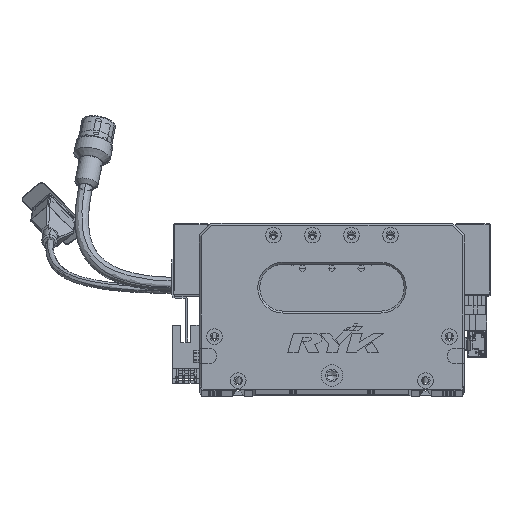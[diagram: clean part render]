
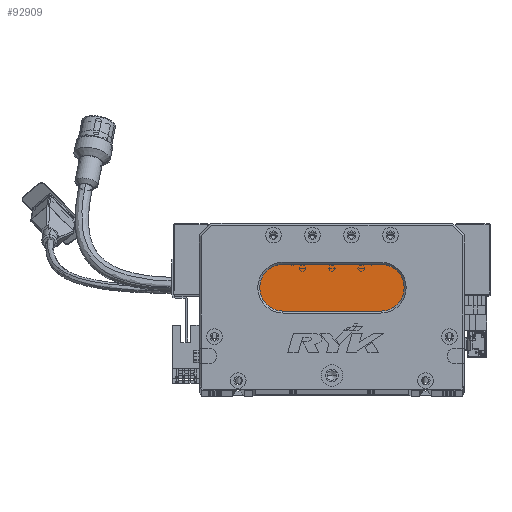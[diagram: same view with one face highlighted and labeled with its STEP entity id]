
A CAD part, top view. The second image highlights one B-rep face of the part: STEP entity #92909.
In plain terms, the highlighted planar face has unit normal (0, 0, 1) as drawn and (0, 0, -1) by its records, which use the part's own axes.
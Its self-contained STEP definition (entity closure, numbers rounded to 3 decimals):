
#24 = DIRECTION ( 'NONE',  ( -1., 0., 0. ) ) ;
#409 = CIRCLE ( 'NONE', #56045, 12. ) ;
#1732 = CARTESIAN_POINT ( 'NONE',  ( 43., 40., 13. ) ) ;
#2955 = EDGE_CURVE ( 'NONE', #38906, #76699, #20261, .T. ) ;
#3281 = CARTESIAN_POINT ( 'NONE',  ( 93., 64., 13. ) ) ;
#5334 = EDGE_LOOP ( 'NONE', ( #9528, #69762, #76406, #75000, #79982 ) ) ;
#9528 = ORIENTED_EDGE ( 'NONE', *, *, #90288, .T. ) ;
#10021 = DIRECTION ( 'NONE',  ( 0., 0., -1. ) ) ;
#11780 = FACE_OUTER_BOUND ( 'NONE', #5334, .T. ) ;
#12826 = DIRECTION ( 'NONE',  ( -1., 0., 0. ) ) ;
#13577 = AXIS2_PLACEMENT_3D ( 'NONE', #57932, #49239, #24 ) ;
#18176 = DIRECTION ( 'NONE',  ( 1., 0., 0. ) ) ;
#18865 = LINE ( 'NONE', #20018, #68107 ) ;
#20018 = CARTESIAN_POINT ( 'NONE',  ( 93., 40., 13. ) ) ;
#20261 = CIRCLE ( 'NONE', #103480, 12. ) ;
#26327 = CARTESIAN_POINT ( 'NONE',  ( 43., 52., 13. ) ) ;
#27147 = VERTEX_POINT ( 'NONE', #3281 ) ;
#27268 = VECTOR ( 'NONE', #18176, 1000. ) ;
#32585 = CARTESIAN_POINT ( 'NONE',  ( 31., 52., 13. ) ) ;
#34450 = CARTESIAN_POINT ( 'NONE',  ( 93., 64., 13. ) ) ;
#36616 = DIRECTION ( 'NONE',  ( -1., 0., 0. ) ) ;
#36628 = CARTESIAN_POINT ( 'NONE',  ( 43., 64., 13. ) ) ;
#37426 = CARTESIAN_POINT ( 'NONE',  ( 43., 52., 13. ) ) ;
#38906 = VERTEX_POINT ( 'NONE', #1732 ) ;
#40934 = PLANE ( 'NONE',  #13577 ) ;
#43175 = AXIS2_PLACEMENT_3D ( 'NONE', #26327, #10021, #43682 ) ;
#43682 = DIRECTION ( 'NONE',  ( -1., 0., 0. ) ) ;
#44246 = EDGE_CURVE ( 'NONE', #70721, #38906, #18865, .T. ) ;
#49239 = DIRECTION ( 'NONE',  ( 0., 0., -1. ) ) ;
#56045 = AXIS2_PLACEMENT_3D ( 'NONE', #90575, #82632, #98523 ) ;
#57932 = CARTESIAN_POINT ( 'NONE',  ( 93., 52., 13. ) ) ;
#59165 = EDGE_CURVE ( 'NONE', #76699, #74461, #95371, .T. ) ;
#62228 = LINE ( 'NONE', #34450, #27268 ) ;
#68107 = VECTOR ( 'NONE', #36616, 1000. ) ;
#69762 = ORIENTED_EDGE ( 'NONE', *, *, #44246, .T. ) ;
#70721 = VERTEX_POINT ( 'NONE', #103386 ) ;
#74461 = VERTEX_POINT ( 'NONE', #36628 ) ;
#75000 = ORIENTED_EDGE ( 'NONE', *, *, #59165, .T. ) ;
#76406 = ORIENTED_EDGE ( 'NONE', *, *, #2955, .T. ) ;
#76699 = VERTEX_POINT ( 'NONE', #32585 ) ;
#77972 = EDGE_CURVE ( 'NONE', #74461, #27147, #62228, .T. ) ;
#79982 = ORIENTED_EDGE ( 'NONE', *, *, #77972, .T. ) ;
#82632 = DIRECTION ( 'NONE',  ( 0., 0., -1. ) ) ;
#90288 = EDGE_CURVE ( 'NONE', #27147, #70721, #409, .T. ) ;
#90575 = CARTESIAN_POINT ( 'NONE',  ( 93., 52., 13. ) ) ;
#92909 = ADVANCED_FACE ( 'NONE', ( #11780 ), #40934, .T. ) ;
#94514 = DIRECTION ( 'NONE',  ( 0., 0., -1. ) ) ;
#95371 = CIRCLE ( 'NONE', #43175, 12. ) ;
#98523 = DIRECTION ( 'NONE',  ( -1., 0., 0. ) ) ;
#103386 = CARTESIAN_POINT ( 'NONE',  ( 93., 40., 13. ) ) ;
#103480 = AXIS2_PLACEMENT_3D ( 'NONE', #37426, #94514, #12826 ) ;
